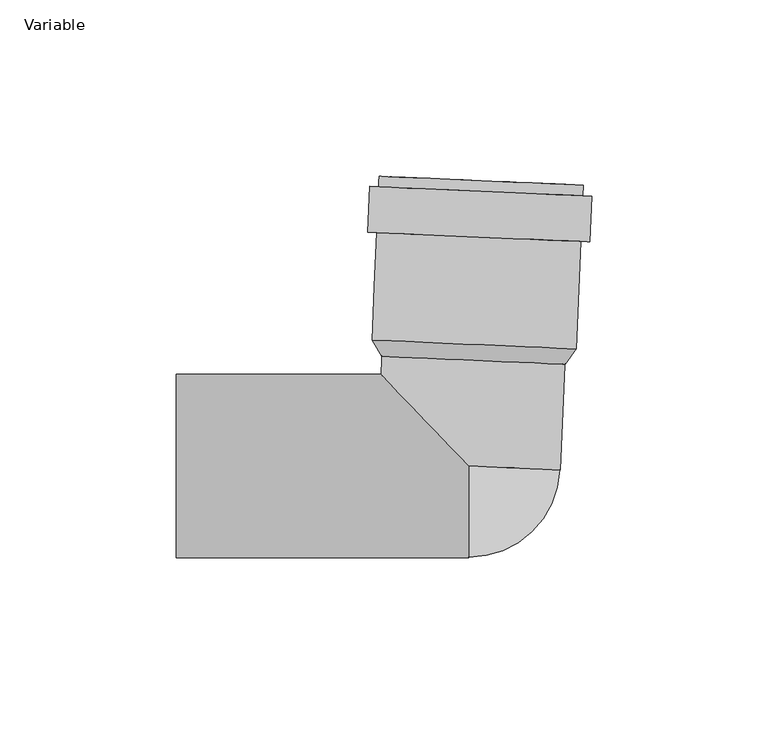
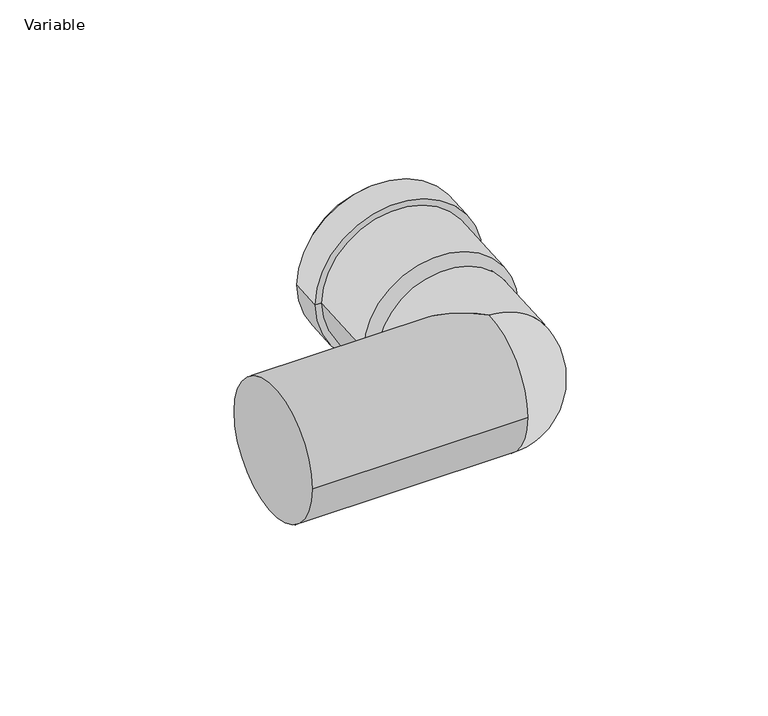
"""IFC4 building model written with IfcOpenShell, lengths in millimetres: pipe fitting geometry, AliaxisFR_Friaphon_ElbowMF_FR : Variable."""

from ifc_helpers import new_model, si_unit, point, frame, origin, place, context, project, spatial, polyline, circle_curve, ellipse_curve, trimmed, source, transform, mapped, element, save
from ifc_brep_helpers import plane_surface, cylinder_surface, revolved_surface, advanced_brep


def variable_eea7283b(model_context):
    return source(origin(), model_context, "Body", "AdvancedBrep", [
        advanced_brep(
        [(32.5055688, 79.6579437, 0.0), (-25.439228, 82.1878682, 0.0), (-22.4420834, 82.05701, 0.0), (29.5084241, 79.7888019, 0.0), (34.3052792, 63.5641237, 0.0), (-28.6347588, 66.3121451, 0.0), (-28.0677068, 79.299772, 0.0), (34.8723312, 76.5517506, 0.0), (31.8076586, 63.6731722, 0.0), (-26.1371382, 66.2030966, 0.0), (30.4772673, 33.2022014, 0.0), (-27.4675296, 35.7321259, 0.0), (-24.6666721, 31.1055507, 0.0), (27.2838354, 28.8373426, 0.0), (32.3747106, 76.660799, 0.0), (-25.5700862, 79.1907235, 0.0)],
        [
            (0, 1, circle_curve(frame((3.5331704, 80.9229059, 0.0), z_axis=(0.0436193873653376, 0.9990482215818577, 0.0), x_axis=(-0.9990482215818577, 0.0436193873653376, 0.0)), 29.0)),
            (1, 2),
            (2, 3, circle_curve(frame((3.5331704, 80.9229059, 0.0), z_axis=(-0.0436193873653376, -0.9990482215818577, 0.0), x_axis=(-0.9990482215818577, 0.0436193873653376, 0.0)), 26.0)),
            (3, 0),
            (1, 0, circle_curve(frame((3.5331704, 80.9229059, 0.0), z_axis=(0.0436193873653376, 0.9990482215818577, 0.0), x_axis=(-0.9990482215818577, 0.0436193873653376, 0.0)), 29.0)),
            (3, 2, circle_curve(frame((3.5331704, 80.9229059, 0.0), z_axis=(-0.0436193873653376, -0.9990482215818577, 0.0), x_axis=(-0.9990482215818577, 0.0436193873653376, 0.0)), 26.0)),
            (4, 5, circle_curve(frame((2.8352602, 64.9381344, 0.0), z_axis=(0.0436193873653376, 0.9990482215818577, 0.0), x_axis=(-0.9990482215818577, 0.0436193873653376, 0.0)), 31.5)),
            (5, 6),
            (6, 7, circle_curve(frame((3.4023122, 77.9257613, 0.0), z_axis=(-0.0436193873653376, -0.9990482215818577, 0.0), x_axis=(-0.9990482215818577, 0.0436193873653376, 0.0)), 31.5)),
            (7, 4),
            (5, 4, circle_curve(frame((2.8352602, 64.9381344, 0.0), z_axis=(0.0436193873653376, 0.9990482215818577, 0.0), x_axis=(-0.9990482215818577, 0.0436193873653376, 0.0)), 31.5)),
            (7, 6, circle_curve(frame((3.4023122, 77.9257613, 0.0), z_axis=(-0.0436193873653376, -0.9990482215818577, 0.0), x_axis=(-0.9990482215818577, 0.0436193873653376, 0.0)), 31.5)),
            (8, 9, circle_curve(frame((2.8352602, 64.9381344, 0.0), z_axis=(0.0436193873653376, 0.9990482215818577, 0.0), x_axis=(-0.9990482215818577, 0.0436193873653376, 0.0)), 29.0)),
            (9, 5),
            (4, 8),
            (9, 8, circle_curve(frame((2.8352602, 64.9381344, 0.0), z_axis=(0.0436193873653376, 0.9990482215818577, 0.0), x_axis=(-0.9990482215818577, 0.0436193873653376, 0.0)), 29.0)),
            (10, 11, circle_curve(frame((1.5048689, 34.4671636, 0.0), z_axis=(0.0436193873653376, 0.9990482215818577, 0.0), x_axis=(-0.9990482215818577, 0.0436193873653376, 0.0)), 29.0)),
            (11, 9),
            (8, 10),
            (11, 10, circle_curve(frame((1.5048689, 34.4671636, 0.0), z_axis=(0.0436193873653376, 0.9990482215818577, 0.0), x_axis=(-0.9990482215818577, 0.0436193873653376, 0.0)), 29.0)),
            (2, 12),
            (12, 13, circle_curve(frame((1.3085816, 29.9714466, 0.0), z_axis=(-0.0436193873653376, -0.9990482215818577, 0.0), x_axis=(-0.9990482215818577, 0.0436193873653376, 0.0)), 26.0)),
            (13, 3),
            (13, 12, circle_curve(frame((1.3085816, 29.9714466, 0.0), z_axis=(-0.0436193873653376, -0.9990482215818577, 0.0), x_axis=(-0.9990482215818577, 0.0436193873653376, 0.0)), 26.0)),
            (12, 11),
            (10, 13),
            (14, 15, circle_curve(frame((3.4023122, 77.9257613, 0.0), z_axis=(0.0436193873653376, 0.9990482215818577, 0.0), x_axis=(-0.9990482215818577, 0.0436193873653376, 0.0)), 29.0)),
            (15, 1),
            (0, 14),
            (15, 14, circle_curve(frame((3.4023122, 77.9257613, 0.0), z_axis=(0.0436193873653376, 0.9990482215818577, 0.0), x_axis=(-0.9990482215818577, 0.0436193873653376, 0.0)), 29.0)),
            (6, 15),
            (14, 7),
        ],
        [
            plane_surface(frame((3.5331704, 80.9229059, 0.0), z_axis=(0.0436193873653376, 0.9990482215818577, 0.0), x_axis=(-0.9990482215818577, 0.0436193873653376, 0.0))),
            cylinder_surface(frame((1.3085816, 29.9714466, 0.0), z_axis=(-0.0436193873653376, -0.9990482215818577, 0.0), x_axis=(-0.9990482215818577, 0.0436193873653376, 0.0)), 31.5),
            plane_surface(frame((2.8352602, 64.9381344, 0.0), z_axis=(-0.0436193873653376, -0.9990482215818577, 0.0), x_axis=(-0.9990482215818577, 0.0436193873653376, 0.0))),
            cylinder_surface(frame((1.3085816, 29.9714466, 0.0), z_axis=(-0.0436193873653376, -0.9990482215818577, 0.0), x_axis=(-0.9990482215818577, 0.0436193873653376, 0.0)), 29.0),
            revolved_surface(polyline([(-24.6666721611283, 31.10555067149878, 0.0), (-22.44208340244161, 82.0570100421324, 0.0)]), (1.3085816, 29.9714466, 0.0), (-0.0436193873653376, -0.9990482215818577, 0.0)),
            revolved_surface(polyline([(-27.4675296, 35.7321259, 0.0), (-24.6666721, 31.1055507, 0.0)]), (1.3085816, 29.9714466, 0.0), (-0.0436193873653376, -0.9990482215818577, 0.0)),
            plane_surface(frame((3.4023122, 77.9257613, 0.0), z_axis=(0.0436193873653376, 0.9990482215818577, 0.0), x_axis=(-0.9990482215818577, 0.0436193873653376, 0.0))),
        ],
        [
            (0, [[1, 2, 3, 4]]),
            (0, [[5, -4, 6, -2]]),
            (1, [[7, 8, 9, 10]]),
            (1, [[11, -10, 12, -8]]),
            (2, [[13, 14, -7, 15]]),
            (2, [[16, -15, -11, -14]]),
            (3, [[17, 18, -13, 19]]),
            (3, [[20, -19, -16, -18]]),
            (4, [[-3, 21, 22, 23]]),
            (4, [[-6, -23, 24, -21]]),
            (5, [[-22, 25, -17, 26]]),
            (5, [[-24, -26, -20, -25]]),
            (3, [[27, 28, -1, 29]]),
            (3, [[30, -29, -5, -28]]),
            (6, [[-9, 31, -27, 32]]),
            (6, [[-12, -32, -30, -31]]),
        ],
    ),
        advanced_brep(
        [(-24.535814, 34.1026954, 0.0), (1.4394398, 32.9685913, 26.0), (27.4146935, 31.8344872, 0.0), (1.4394398, 32.9685913, -26.0), (25.9752538, -1.1341041, 0.0), (-24.8895853, 26.0, 0.0), (0.0, 0.0, 26.0), (0.0, 0.0, -26.0), (-83.0, -26.0, 0.0), (-83.0, 26.0, 0.0), (0.0, -26.0, 0.0)],
        [
            (0, 1, circle_curve(frame((1.4394398, 32.9685913, 0.0), z_axis=(0.04361938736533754, 0.9990482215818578, 0.0), x_axis=(-0.9990482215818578, 0.04361938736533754, 0.0)), 26.0)),
            (1, 2, circle_curve(frame((1.4394398, 32.9685913, 0.0), z_axis=(0.04361938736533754, 0.9990482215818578, 0.0), x_axis=(-0.9990482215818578, 0.04361938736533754, 0.0)), 26.0)),
            (2, 3, circle_curve(frame((1.4394398, 32.9685913, 0.0), z_axis=(0.04361938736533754, 0.9990482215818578, 0.0), x_axis=(-0.9990482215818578, 0.04361938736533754, 0.0)), 26.0)),
            (3, 0, circle_curve(frame((1.4394398, 32.9685913, 0.0), z_axis=(0.04361938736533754, 0.9990482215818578, 0.0), x_axis=(-0.9990482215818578, 0.04361938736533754, 0.0)), 26.0)),
            (4, 2),
            (0, 5),
            (5, 6, ellipse_curve(frame((0.0, 0.0, 0.0), z_axis=(0.722363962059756, 0.6915130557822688, 0.0), x_axis=(0.6915130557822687, -0.7223639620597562, 0.0)), 35.9929362, 26.0)),
            (6, 4, circle_curve(frame((0.0, 0.0, 0.0), z_axis=(0.04361938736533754, 0.9990482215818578, 0.0), x_axis=(-0.9990482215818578, 0.04361938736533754, 0.0)), 26.0)),
            (4, 7, circle_curve(frame((0.0, 0.0, 0.0), z_axis=(0.04361938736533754, 0.9990482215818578, 0.0), x_axis=(-0.9990482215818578, 0.04361938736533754, 0.0)), 26.0)),
            (7, 5, ellipse_curve(frame((0.0, 0.0, 0.0), z_axis=(0.722363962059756, 0.6915130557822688, 0.0), x_axis=(0.6915130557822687, -0.7223639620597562, 0.0)), 35.9929362, 26.0)),
            (8, 9, circle_curve(frame((-83.0, 0.0, 0.0), z_axis=(-1.0, 0.0, 0.0), x_axis=(0.0, 1.0, 0.0)), 26.0)),
            (9, 8, circle_curve(frame((-83.0, 0.0, 0.0), z_axis=(-1.0, 0.0, 0.0), x_axis=(0.0, 1.0, 0.0)), 26.0)),
            (8, 10),
            (10, 6, circle_curve(frame((0.0, 0.0, 0.0), z_axis=(-1.0, 0.0, 0.0), x_axis=(0.0, 1.0, 0.0)), 26.0)),
            (5, 9),
            (7, 10, circle_curve(frame((0.0, 0.0, 0.0), z_axis=(-1.0, 0.0, 0.0), x_axis=(0.0, 1.0, 0.0)), 26.0)),
        ],
        [
            plane_surface(frame((1.4394398, 32.9685913, 0.0), z_axis=(0.04361938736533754, 0.9990482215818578, 0.0), x_axis=(0.0, 0.0, 1.0))),
            cylinder_surface(frame((0.0, 0.0, 0.0), z_axis=(-0.04361938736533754, -0.9990482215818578, 0.0), x_axis=(-0.9990482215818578, 0.04361938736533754, 0.0)), 26.0),
            plane_surface(frame((-83.0, 0.0, 0.0), z_axis=(-1.0, 0.0, 0.0), x_axis=(0.0, 0.0, 1.0))),
            cylinder_surface(frame((-83.0, 0.0, 0.0), z_axis=(-1.0, 0.0, 0.0), x_axis=(0.0, 1.0, 0.0)), 26.0),
            revolved_surface(trimmed(ellipse_curve(frame((0.0, 0.0, 0.0), z_axis=(0.0436193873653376, 0.9990482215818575, 0.0), x_axis=(-0.9990482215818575, 0.0436193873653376, 0.0)), 26.0, 26.0), [point((0.0, 0.0, 26.0))], [point((0.0, 0.0, -26.0))], True, "CARTESIAN"), (0.0, 0.0, 26.0), (0.0, 0.0, -1.0)),
        ],
        [
            (0, [[1, 2, 3, 4]]),
            (1, [[5, -2, -1, 6, 7, 8]]),
            (1, [[-5, 9, 10, -6, -4, -3]]),
            (2, [[11, 12]]),
            (3, [[-11, 13, 14, -7, 15]]),
            (3, [[-12, -15, -10, 16, -13]]),
            (4, [[-14, -16, -9, -8]]),
        ],
    ),
    ])


if __name__ == "__main__":
    model = new_model("IFC4")
    model_context = context("Model", 3, world=origin())
    ifc_project = project(units=[si_unit("LENGTHUNIT", "METRE", prefix="MILLI")], contexts=[model_context])
    site = spatial("IfcSite", under=ifc_project)
    building = spatial("IfcBuilding", under=site)
    placement = place(None, origin())
    variable_shape = variable_eea7283b(model_context)
    element("IfcPipeFitting", 1, ObjectType="AliaxisFR_Friaphon_ElbowMF_FR : Variable", at=placement, inside=building, context=model_context, shape_type="MappedRepresentation", body=[
        mapped(variable_shape, transform((0.0, 0.0, 0.0), x_axis=(1.0, 0.0, 0.0), y_axis=(0.0, 1.0, 0.0), z_axis=(0.0, 0.0, 1.0))),
    ])
    save(model, "model.ifc")
